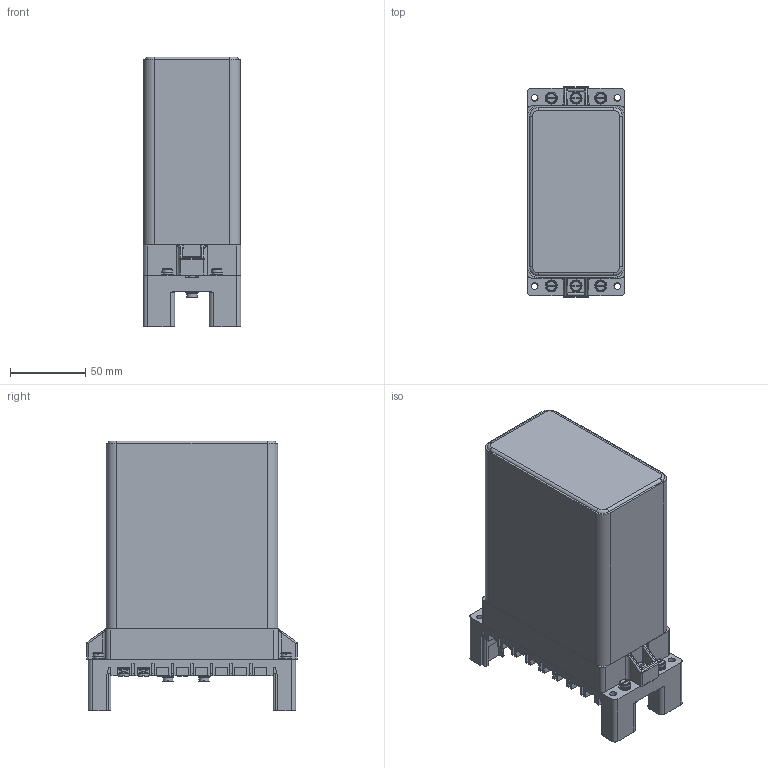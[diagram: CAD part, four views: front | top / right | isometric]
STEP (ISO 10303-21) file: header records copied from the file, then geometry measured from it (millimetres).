
FILE_DESCRIPTION(('STEP AP214'), '1');
FILE_NAME('ÈÀÅÆ.647155.013-76 - ÐÍ-151 ç.ï', '', ('UNSPECIFIED'), ('UNSPECIFIED'), 'ASCON STEP Converter 1.3', 'ASCON Math Kernel', '');
FILE_SCHEMA(('AUTOMOTIVE_DESIGN { 1 0 10303 214 3 1 1}'));
Length unit declared in the file: millimetre
Products named in the file (1): 壤牌.647155.013-76
Bounding box: 65 x 140 x 179.5 mm (x, y, z)
Volume: 1157453.8 mm3; surface area: 109787.2 mm2
Topology: 1 solids, 1 shells, 3752 faces, 9249 edges, 5640 vertices
Faces by surface type: plane 2981, cylinder 679, torus 46, cone 34, bspline 12
Full cylindrical faces by diameter (mm): 4 x18, 4.3 x6, 4.5 x28, 5 x2, 5.9 x10, 7 x2, 7.5 x10, 8 x8
Entity records: 142031 total; most frequent: CARTESIAN_POINT 23736, ORIENTED_EDGE 18226, DIRECTION 17911, EDGE_CURVE 9113, LINE 7237, VECTOR 7237, VERTEX_POINT 5640, AXIS2_PLACEMENT_3D 5337
